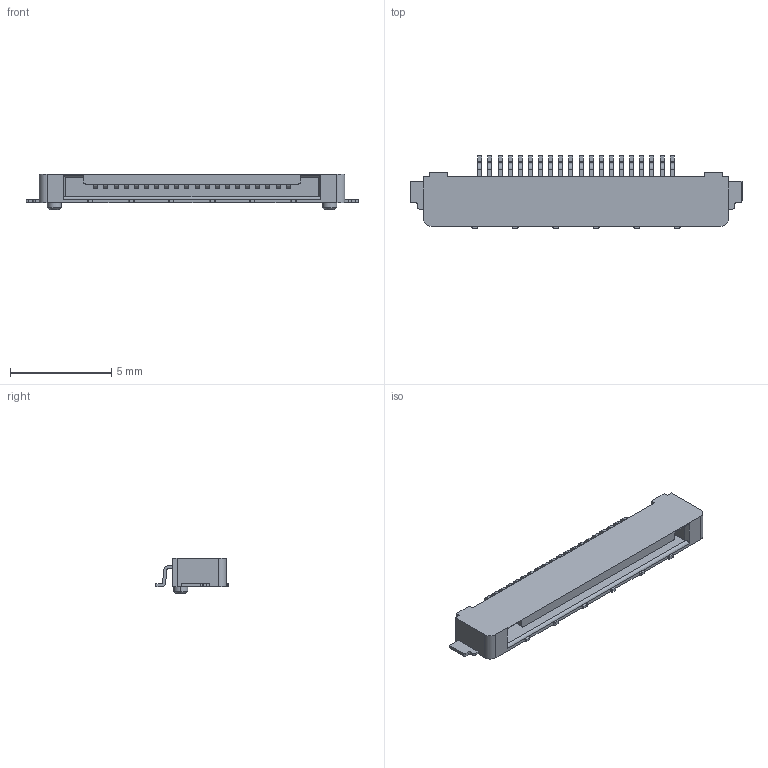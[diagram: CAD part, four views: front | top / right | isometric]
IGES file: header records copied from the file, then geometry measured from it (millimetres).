
Start section: Elysium IGES Interface
Global section: file name: C:\Users\1088\Desktop\SSL01-XXL3\SSL01-20L3_IG.igs; native system: Creo Elements/Direct Modeling 19.0F  14-Feb-2017; preprocessor: Creo Element/Direct IGES_3D V2.2; author: Unknown; organization: Unknown; date: 20170804.145222; units: millimetre
Bounding box: 16.4 x 3.58 x 1.75 mm (x, y, z)
Volume: 40.5 mm3; surface area: 206.7 mm2
Topology: 1 solids, 1 shells, 516 faces, 1527 edges, 1016 vertices
Faces by surface type: bspline 516
